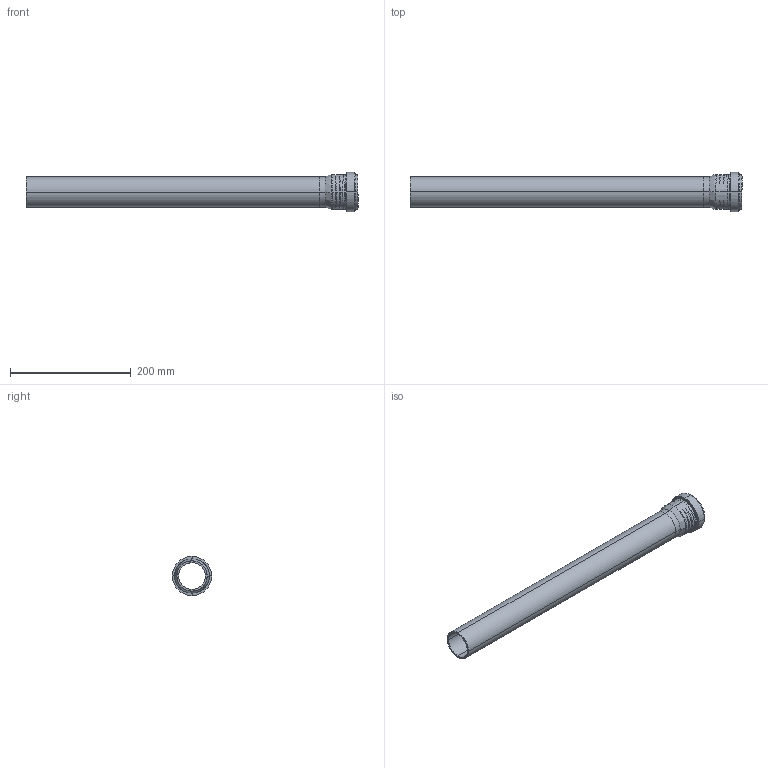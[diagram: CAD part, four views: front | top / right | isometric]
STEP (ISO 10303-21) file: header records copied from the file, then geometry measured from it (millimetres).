
FILE_DESCRIPTION(/* description */ (''),/* implementation_level */ '2;1');
FILE_NAME(/* name */ 'H:\Geberit-Teile\Export\393.202.14.1\stp\393202.stp',/* time_stamp */ '2018-07-06T10:32:29+02:00',/* author */ ('seihe2'),/* organization */ (''),/* preprocessor_version */ 'ST-DEVELOPER v15.2',/* originating_system */ 'Autodesk Inventor 2014',/* authorisation */ '');
FILE_SCHEMA (('AUTOMOTIVE_DESIGN { 1 0 10303 214 3 1 1 }'));
Length unit declared in the file: millimetre
Products named in the file (1): 393202
Bounding box: 550.8 x 65.1 x 65.1 mm (x, y, z)
Volume: 251799.6 mm3; surface area: 170252.5 mm2
Topology: 1 solids, 1 shells, 112 faces, 259 edges, 146 vertices
Faces by surface type: bspline 56, cylinder 32, cone 18, torus 4, plane 2
Entity records: 7095 total; most frequent: CARTESIAN_POINT 4738, ORIENTED_EDGE 512, DIRECTION 390, EDGE_CURVE 256, AXIS2_PLACEMENT_3D 157, VERTEX_POINT 146, EDGE_LOOP 114, STYLED_ITEM 113
